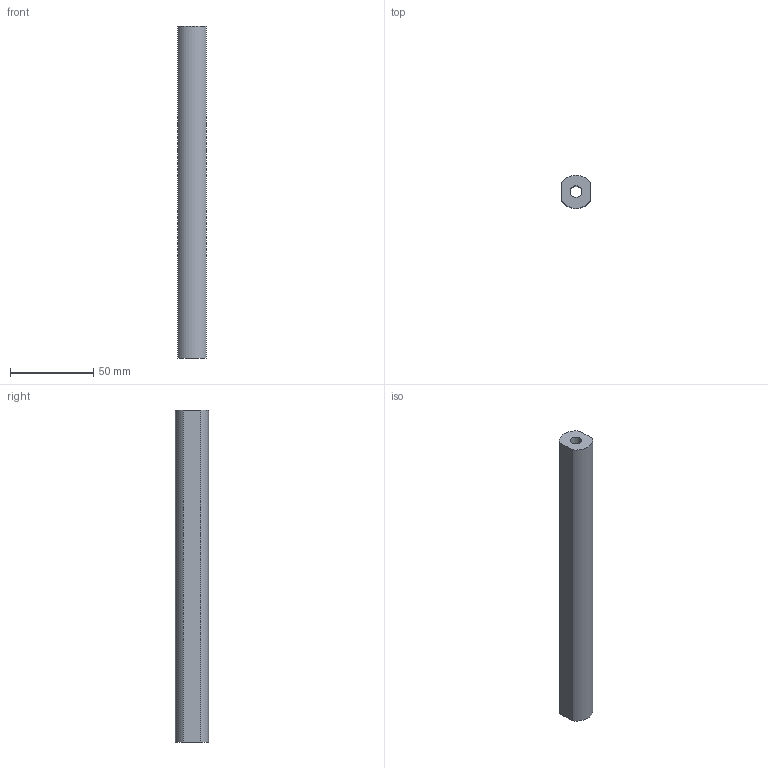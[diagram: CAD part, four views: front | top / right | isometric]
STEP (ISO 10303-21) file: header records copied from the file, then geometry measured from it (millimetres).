
FILE_DESCRIPTION (( 'STEP AP214' ), '1' );
FILE_NAME ('FGDT 200.step', '2017-04-05T07:36:55', ( '' ), ( '' ), 'SwSTEP 2.0', 'SolidWorks 2015', '' );
FILE_SCHEMA (( 'AUTOMOTIVE_DESIGN' ));
Length unit declared in the file: millimetre
Products named in the file (1): FGDT 200
Bounding box: 17 x 20 x 200 mm (x, y, z)
Volume: 50853.1 mm3; surface area: 17248.9 mm2
Topology: 1 solids, 1 shells, 8 faces, 18 edges, 12 vertices
Faces by surface type: cylinder 4, plane 4
Entity records: 268 total; most frequent: DIRECTION 44, CARTESIAN_POINT 39, ORIENTED_EDGE 36, EDGE_CURVE 18, AXIS2_PLACEMENT_3D 17, VERTEX_POINT 12, LINE 10, EDGE_LOOP 10
